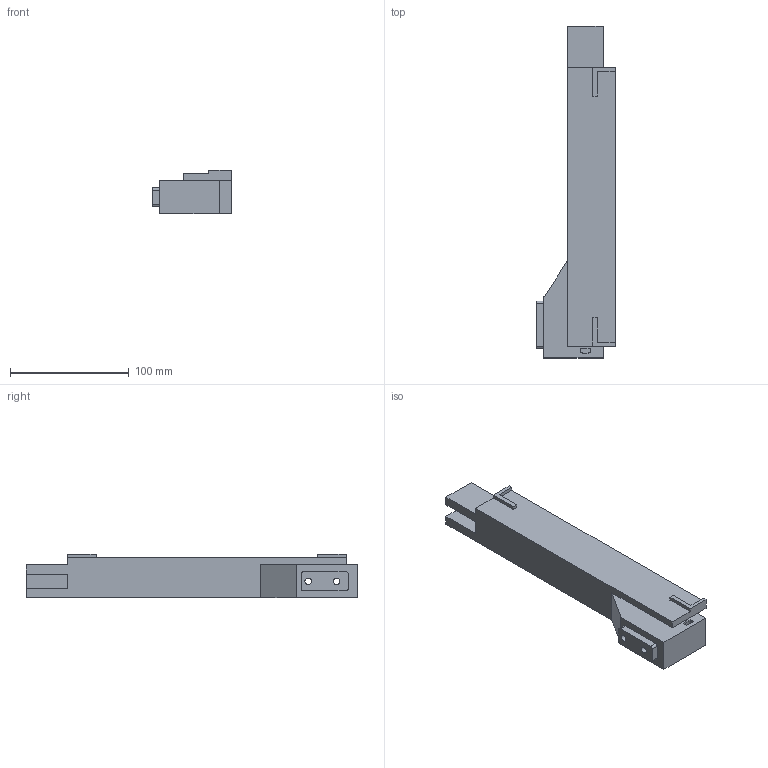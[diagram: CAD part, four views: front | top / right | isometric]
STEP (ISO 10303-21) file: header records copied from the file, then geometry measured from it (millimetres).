
FILE_DESCRIPTION(('Open CASCADE Model'),'2;1');
FILE_NAME('Open CASCADE Shape Model','2026-10-04T00:42:53',('Author'),( 'Open CASCADE'),'Open CASCADE STEP processor 7.8','Open CASCADE 7.8' ,'Unknown');
FILE_SCHEMA(('AUTOMOTIVE_DESIGN { 1 0 10303 214 1 1 1 1 }'));
Length unit declared in the file: millimetre
Products named in the file (1): Open CASCADE STEP translator 7.8 12
Bounding box: 66.25 x 280 x 37 mm (x, y, z)
Volume: 374247.6 mm3; surface area: 51987.6 mm2
Topology: 1 solids, 2 shells, 80 faces, 213 edges, 139 vertices
Faces by surface type: plane 71, cylinder 9
Full cylindrical faces by diameter (mm): 5.6 x2, 9.2 x1
Entity records: 5308 total; most frequent: CARTESIAN_POINT 1003, DIRECTION 803, LINE 587, VECTOR 587, ORIENTED_EDGE 426, PCURVE 426, DEFINITIONAL_REPRESENTATION 426, EDGE_CURVE 213
